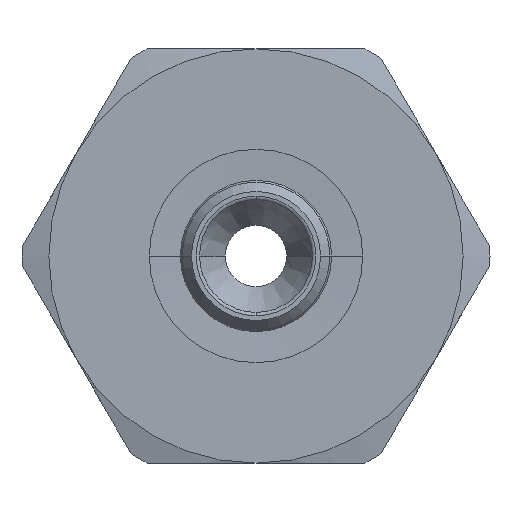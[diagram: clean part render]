
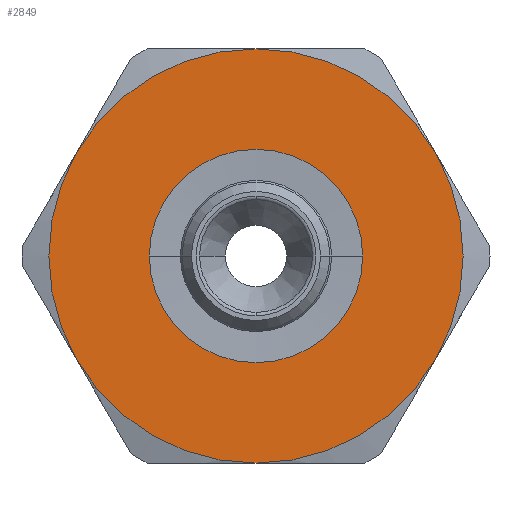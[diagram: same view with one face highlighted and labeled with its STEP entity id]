
A CAD part, left-side view. The second image highlights one B-rep face of the part: STEP entity #2849.
In plain terms, the highlighted planar face has unit normal (-1, 0, 0) as drawn and (0, 0, 1) by its records, which use the part's own axes.
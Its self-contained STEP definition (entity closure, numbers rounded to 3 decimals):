
#1176=CARTESIAN_POINT('',(0.,-6.95,3.5));
#1177=VERTEX_POINT('',#1176);
#1193=CARTESIAN_POINT('',(0.,6.95,3.5));
#1194=VERTEX_POINT('',#1193);
#1201=CARTESIAN_POINT('',(0.,0.,3.5));
#1202=DIRECTION('',(0.0,0.0,-1.0));
#1203=DIRECTION('',(0.0,-1.0,0.0));
#1204=AXIS2_PLACEMENT_3D('',#1201,#1202,#1203);
#1205=CIRCLE('',#1204,6.95);
#1206=EDGE_CURVE('',#1177,#1194,#1205,.T.);
#1663=CARTESIAN_POINT('',(0.,0.,3.5));
#1664=DIRECTION('',(0.0,0.0,-1.0));
#1665=DIRECTION('',(0.0,-1.0,0.0));
#1666=AXIS2_PLACEMENT_3D('',#1663,#1664,#1665);
#1667=CIRCLE('',#1666,6.95);
#1668=EDGE_CURVE('',#1194,#1177,#1667,.T.);
#2222=CARTESIAN_POINT('',(6.75,-11.691,3.5));
#2223=VERTEX_POINT('',#2222);
#2237=CARTESIAN_POINT('',(-6.75,-11.691,3.5));
#2238=VERTEX_POINT('',#2237);
#2239=CARTESIAN_POINT('',(0.,0.0,3.5));
#2240=DIRECTION('',(0.0,0.0,1.0));
#2241=DIRECTION('',(1.0,0.0,0.0));
#2242=AXIS2_PLACEMENT_3D('',#2239,#2240,#2241);
#2243=CIRCLE('',#2242,13.5);
#2244=EDGE_CURVE('',#2238,#2223,#2243,.T.);
#2322=CARTESIAN_POINT('',(-13.5,0.,3.5));
#2323=VERTEX_POINT('',#2322);
#2324=CARTESIAN_POINT('',(0.,0.0,3.5));
#2325=DIRECTION('',(0.0,0.0,1.0));
#2326=DIRECTION('',(1.0,0.0,0.0));
#2327=AXIS2_PLACEMENT_3D('',#2324,#2325,#2326);
#2328=CIRCLE('',#2327,13.5);
#2329=EDGE_CURVE('',#2323,#2238,#2328,.T.);
#2406=CARTESIAN_POINT('',(-6.75,11.691,3.5));
#2407=VERTEX_POINT('',#2406);
#2408=CARTESIAN_POINT('',(0.,0.0,3.5));
#2409=DIRECTION('',(0.0,0.0,1.0));
#2410=DIRECTION('',(1.0,0.0,0.0));
#2411=AXIS2_PLACEMENT_3D('',#2408,#2409,#2410);
#2412=CIRCLE('',#2411,13.5);
#2413=EDGE_CURVE('',#2407,#2323,#2412,.T.);
#2490=CARTESIAN_POINT('',(6.75,11.691,3.5));
#2491=VERTEX_POINT('',#2490);
#2492=CARTESIAN_POINT('',(0.,0.0,3.5));
#2493=DIRECTION('',(0.0,0.0,1.0));
#2494=DIRECTION('',(1.0,0.0,0.0));
#2495=AXIS2_PLACEMENT_3D('',#2492,#2493,#2494);
#2496=CIRCLE('',#2495,13.5);
#2497=EDGE_CURVE('',#2491,#2407,#2496,.T.);
#2575=CARTESIAN_POINT('',(13.5,0.0,3.5));
#2576=VERTEX_POINT('',#2575);
#2577=CARTESIAN_POINT('',(0.,0.0,3.5));
#2578=DIRECTION('',(0.0,0.0,1.0));
#2579=DIRECTION('',(1.0,0.0,0.0));
#2580=AXIS2_PLACEMENT_3D('',#2577,#2578,#2579);
#2581=CIRCLE('',#2580,13.5);
#2582=EDGE_CURVE('',#2576,#2491,#2581,.T.);
#2659=CARTESIAN_POINT('',(0.,0.0,3.5));
#2660=DIRECTION('',(0.0,0.0,1.0));
#2661=DIRECTION('',(1.0,0.0,0.0));
#2662=AXIS2_PLACEMENT_3D('',#2659,#2660,#2661);
#2663=CIRCLE('',#2662,13.5);
#2664=EDGE_CURVE('',#2223,#2576,#2663,.T.);
#2832=CARTESIAN_POINT('',(0.,0.,3.5));
#2833=DIRECTION('',(0.0,0.0,1.0));
#2834=DIRECTION('',(1.0,0.0,0.0));
#2835=AXIS2_PLACEMENT_3D('',#2832,#2833,#2834);
#2836=PLANE('',#2835);
#2837=ORIENTED_EDGE('',*,*,#2664,.T.);
#2838=ORIENTED_EDGE('',*,*,#2582,.T.);
#2839=ORIENTED_EDGE('',*,*,#2497,.T.);
#2840=ORIENTED_EDGE('',*,*,#2413,.T.);
#2841=ORIENTED_EDGE('',*,*,#2329,.T.);
#2842=ORIENTED_EDGE('',*,*,#2244,.T.);
#2843=EDGE_LOOP('',(#2837,#2838,#2839,#2840,#2841,#2842));
#2844=FACE_OUTER_BOUND('',#2843,.T.);
#2845=ORIENTED_EDGE('',*,*,#1206,.T.);
#2846=ORIENTED_EDGE('',*,*,#1668,.T.);
#2847=EDGE_LOOP('',(#2845,#2846));
#2848=FACE_BOUND('',#2847,.T.);
#2849=ADVANCED_FACE('',(#2844,#2848),#2836,.T.);
